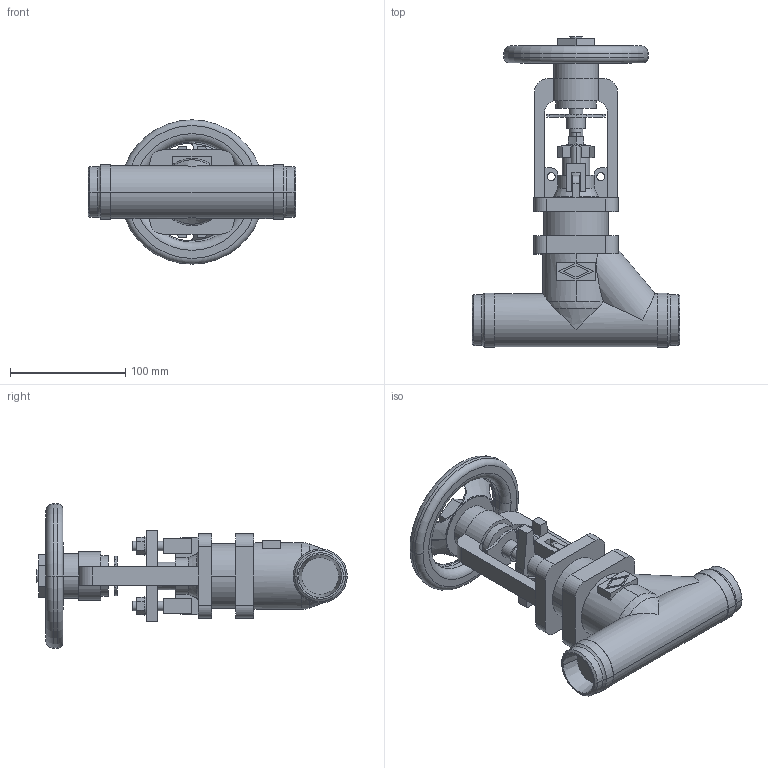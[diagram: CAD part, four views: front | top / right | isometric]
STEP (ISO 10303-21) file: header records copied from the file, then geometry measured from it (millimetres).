
FILE_DESCRIPTION(('OneSpaceDesigner STEP Export'),'2;1');
FILE_NAME('c000004305.stp','2010-05-06T 8:55:52',(''),(''),'OneSpace Designer STEP processor for AP214 (Solid Model)','OneSpace Modeling 15.50B 03-Nov-2007 (C) CoCreate Software GmbH','');
FILE_SCHEMA(('AUTOMOTIVE_DESIGN { 1 0 10303 214 1 1 1 1 }'));
Length unit declared in the file: millimetre
Products named in the file (1): 1
Bounding box: 180 x 269 x 125 mm (x, y, z)
Volume: 874596.6 mm3; surface area: 130153 mm2
Topology: 1 solids, 1 shells, 275 faces, 734 edges, 482 vertices
Faces by surface type: plane 139, cylinder 96, cone 20, torus 20
Entity records: 10820 total; most frequent: CARTESIAN_POINT 2024, ORIENTED_EDGE 1468, DIRECTION 1254, EDGE_CURVE 734, VERTEX_POINT 482, AXIS2_PLACEMENT_3D 424, VECTOR 406, LINE 406
